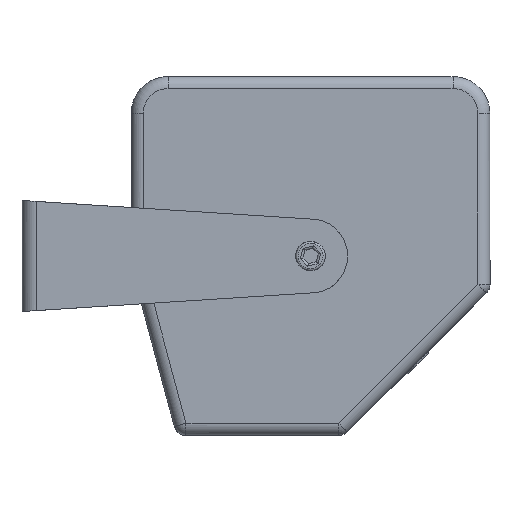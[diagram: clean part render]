
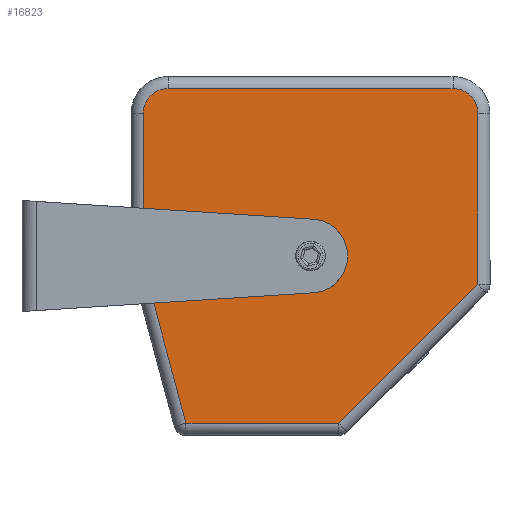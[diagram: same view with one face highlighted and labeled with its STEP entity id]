
A CAD part, left-side view. The second image highlights one B-rep face of the part: STEP entity #16823.
In plain terms, the highlighted planar face has unit normal (-1, 0, 0).
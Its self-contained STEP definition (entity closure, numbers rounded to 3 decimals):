
#3145 = CARTESIAN_POINT ( 'NONE',  ( -12., 6.5, -20. ) ) ;
#3146 = CARTESIAN_POINT ( 'NONE',  ( -12., 6.5, -12.092 ) ) ;
#3147 = CARTESIAN_POINT ( 'NONE',  ( -12., 12.092, -6.5 ) ) ;
#3148 = CARTESIAN_POINT ( 'NONE',  ( -12., 20., -6.5 ) ) ;
#3149 =( BOUNDED_CURVE ( )  B_SPLINE_CURVE ( 3, ( #3148, #3147, #3146, #3145 ),
 .UNSPECIFIED., .F., .T. ) 
 B_SPLINE_CURVE_WITH_KNOTS ( ( 4, 4 ),
 ( 0., 1. ),
 .UNSPECIFIED. ) 
 CURVE ( )  GEOMETRIC_REPRESENTATION_ITEM ( )  RATIONAL_B_SPLINE_CURVE ( ( 1., 0.805, 0.805, 1. ) ) 
 REPRESENTATION_ITEM ( '' )  );
#3156 = CARTESIAN_POINT ( 'NONE',  ( -12., 20., -187.5 ) ) ;
#3160 = CARTESIAN_POINT ( 'NONE',  ( -12., 20., -6.5 ) ) ;
#4397 = CARTESIAN_POINT ( 'NONE',  ( -12., 97., -107. ) ) ;
#4398 = CARTESIAN_POINT ( 'NONE',  ( -12., 98.309, -107. ) ) ;
#4399 = CARTESIAN_POINT ( 'NONE',  ( -12., 99.617, -106.74 ) ) ;
#4400 = CARTESIAN_POINT ( 'NONE',  ( -12., 102.036, -105.738 ) ) ;
#4401 = CARTESIAN_POINT ( 'NONE',  ( -12., 103.145, -104.997 ) ) ;
#4402 = CARTESIAN_POINT ( 'NONE',  ( -12., 104.997, -103.145 ) ) ;
#4403 = CARTESIAN_POINT ( 'NONE',  ( -12., 105.738, -102.036 ) ) ;
#4404 = CARTESIAN_POINT ( 'NONE',  ( -12., 106.74, -99.617 ) ) ;
#4405 = CARTESIAN_POINT ( 'NONE',  ( -12., 107., -98.309 ) ) ;
#4406 = CARTESIAN_POINT ( 'NONE',  ( -12., 107., -95.691 ) ) ;
#4407 = CARTESIAN_POINT ( 'NONE',  ( -12., 106.74, -94.383 ) ) ;
#4408 = CARTESIAN_POINT ( 'NONE',  ( -12., 105.738, -91.964 ) ) ;
#4409 = CARTESIAN_POINT ( 'NONE',  ( -12., 104.997, -90.855 ) ) ;
#4410 = CARTESIAN_POINT ( 'NONE',  ( -12., 103.145, -89.003 ) ) ;
#4411 = CARTESIAN_POINT ( 'NONE',  ( -12., 102.036, -88.262 ) ) ;
#4412 = CARTESIAN_POINT ( 'NONE',  ( -12., 99.617, -87.26 ) ) ;
#4413 = CARTESIAN_POINT ( 'NONE',  ( -12., 98.309, -87. ) ) ;
#4484 = CARTESIAN_POINT ( 'NONE',  ( -12., 97., -87. ) ) ;
#4485 = B_SPLINE_CURVE_WITH_KNOTS ( 'NONE', 3,
 ( #4484, #4413, #4412, #4411, #4410, #4409, #4408, #4407, #4406, #4405, #4404, #4403, #4402, #4401, #4400, #4399, #4398, #4397 ),
 .UNSPECIFIED., .F., .F.,
 ( 4, 2, 2, 2, 2, 2, 2, 2, 4 ),
 ( 0., 0.125, 0.25, 0.375, 0.5, 0.625, 0.75, 0.875, 1. ),
 .UNSPECIFIED. ) ;
#4534 = DIRECTION ( 'NONE',  ( 0., 0., -1. ) ) ;
#4535 = VECTOR ( 'NONE', #4534, 1000. ) ;
#4536 = CARTESIAN_POINT ( 'NONE',  ( -12., 6.5, -91.565 ) ) ;
#4537 = LINE ( 'NONE', #4536, #4535 ) ;
#4539 = CARTESIAN_POINT ( 'NONE',  ( -12., 97., -87. ) ) ;
#4549 = CARTESIAN_POINT ( 'NONE',  ( -12., 97., -87. ) ) ;
#4575 = DIRECTION ( 'NONE',  ( 0., 0.707, 0.707 ) ) ;
#4576 = VECTOR ( 'NONE', #4575, 1000. ) ;
#4577 = CARTESIAN_POINT ( 'NONE',  ( -12., 112.308, -187.5 ) ) ;
#4578 = LINE ( 'NONE', #4577, #4576 ) ;
#4583 = CARTESIAN_POINT ( 'NONE',  ( -12., 112.308, -187.5 ) ) ;
#4584 = DIRECTION ( 'NONE',  ( 0., -0.966, 0.259 ) ) ;
#4585 = VECTOR ( 'NONE', #4584, 1000. ) ;
#4586 = CARTESIAN_POINT ( 'NONE',  ( -12., 187.5, -29.639 ) ) ;
#4587 = LINE ( 'NONE', #4586, #4585 ) ;
#4588 = DIRECTION ( 'NONE',  ( 0., 0., 1. ) ) ;
#4589 = VECTOR ( 'NONE', #4588, 1000. ) ;
#4590 = CARTESIAN_POINT ( 'NONE',  ( -12., 187.5, -91.565 ) ) ;
#4591 = LINE ( 'NONE', #4590, #4589 ) ;
#4615 = CARTESIAN_POINT ( 'NONE',  ( -12., 94.383, -87.26 ) ) ;
#4651 = CARTESIAN_POINT ( 'NONE',  ( -12., 6.5, -20. ) ) ;
#4677 = CARTESIAN_POINT ( 'NONE',  ( -12., 95.691, -87. ) ) ;
#5163 = CARTESIAN_POINT ( 'NONE',  ( -12., 95.691, -107. ) ) ;
#5164 = CARTESIAN_POINT ( 'NONE',  ( -12., 97., -107. ) ) ;
#5187 = CARTESIAN_POINT ( 'NONE',  ( -12., 97., -107. ) ) ;
#5197 = CARTESIAN_POINT ( 'NONE',  ( -12., 91.964, -88.262 ) ) ;
#5198 = CARTESIAN_POINT ( 'NONE',  ( -12., 90.855, -89.003 ) ) ;
#5199 = CARTESIAN_POINT ( 'NONE',  ( -12., 89.003, -90.855 ) ) ;
#5200 = CARTESIAN_POINT ( 'NONE',  ( -12., 88.262, -91.964 ) ) ;
#5201 = CARTESIAN_POINT ( 'NONE',  ( -12., 87.26, -94.383 ) ) ;
#5202 = CARTESIAN_POINT ( 'NONE',  ( -12., 87., -95.691 ) ) ;
#5203 = CARTESIAN_POINT ( 'NONE',  ( -12., 87., -98.309 ) ) ;
#5204 = CARTESIAN_POINT ( 'NONE',  ( -12., 87.26, -99.617 ) ) ;
#5205 = CARTESIAN_POINT ( 'NONE',  ( -12., 88.262, -102.036 ) ) ;
#5208 = CARTESIAN_POINT ( 'NONE',  ( -12., 89.003, -103.145 ) ) ;
#5209 = CARTESIAN_POINT ( 'NONE',  ( -12., 90.855, -104.997 ) ) ;
#5210 = CARTESIAN_POINT ( 'NONE',  ( -12., 91.964, -105.738 ) ) ;
#5211 = CARTESIAN_POINT ( 'NONE',  ( -12., 94.383, -106.74 ) ) ;
#5212 = B_SPLINE_CURVE_WITH_KNOTS ( 'NONE', 3,
 ( #5164, #5163, #5211, #5210, #5209, #5208, #5205, #5204, #5203, #5202, #5201, #5200, #5199, #5198, #5197, #4615, #4677, #4549 ),
 .UNSPECIFIED., .F., .F.,
 ( 4, 2, 2, 2, 2, 2, 2, 2, 4 ),
 ( 0., 0.125, 0.25, 0.375, 0.5, 0.625, 0.75, 0.875, 1. ),
 .UNSPECIFIED. ) ;
#7396 = DIRECTION ( 'NONE',  ( 0., 1., 0. ) ) ;
#7398 = CARTESIAN_POINT ( 'NONE',  ( -12., 90.336, -187.5 ) ) ;
#7399 = LINE ( 'NONE', #7398, #7405 ) ;
#7405 = VECTOR ( 'NONE', #7396, 1000. ) ;
#8164 = DIRECTION ( 'NONE',  ( 0., -1., 0. ) ) ;
#8167 = VECTOR ( 'NONE', #8164, 1000. ) ;
#8168 = CARTESIAN_POINT ( 'NONE',  ( -12., 42.836, -6.5 ) ) ;
#8169 = LINE ( 'NONE', #8168, #8167 ) ;
#8905 = CARTESIAN_POINT ( 'NONE',  ( -12., 187.5, -29.639 ) ) ;
#9383 = DIRECTION ( 'NONE',  ( 0., 0., -1. ) ) ;
#9385 = DIRECTION ( 'NONE',  ( 1., 0., 0. ) ) ;
#9387 = CARTESIAN_POINT ( 'NONE',  ( -12., 65.672, -91.565 ) ) ;
#9388 = AXIS2_PLACEMENT_3D ( 'NONE', #9387, #9385, #9383 ) ;
#9456 = PLANE ( 'NONE',  #9388 ) ;
#9457 = FACE_OUTER_BOUND ( 'NONE', #16821, .T. ) ;
#9458 = FACE_BOUND ( 'NONE', #16824, .T. ) ;
#9469 =( BOUNDED_CURVE ( )  B_SPLINE_CURVE ( 3, ( #9475, #9474, #9473, #9472 ),
 .UNSPECIFIED., .F., .T. ) 
 B_SPLINE_CURVE_WITH_KNOTS ( ( 4, 4 ),
 ( 0., 1. ),
 .UNSPECIFIED. ) 
 CURVE ( )  GEOMETRIC_REPRESENTATION_ITEM ( )  RATIONAL_B_SPLINE_CURVE ( ( 1., 0.805, 0.805, 1. ) ) 
 REPRESENTATION_ITEM ( '' )  );
#9472 = CARTESIAN_POINT ( 'NONE',  ( -12., 20., -187.5 ) ) ;
#9473 = CARTESIAN_POINT ( 'NONE',  ( -12., 12.092, -187.5 ) ) ;
#9474 = CARTESIAN_POINT ( 'NONE',  ( -12., 6.5, -181.908 ) ) ;
#9475 = CARTESIAN_POINT ( 'NONE',  ( -12., 6.5, -174. ) ) ;
#9496 = CARTESIAN_POINT ( 'NONE',  ( -12., 187.5, -112.308 ) ) ;
#9563 = CARTESIAN_POINT ( 'NONE',  ( -12., 6.5, -174. ) ) ;
#14309 = CARTESIAN_POINT ( 'NONE',  ( -12., 101.144, -6.5 ) ) ;
#15126 = VERTEX_POINT ( 'NONE', #8905 ) ;
#15540 = VERTEX_POINT ( 'NONE', #9496 ) ;
#16448 = VERTEX_POINT ( 'NONE', #14309 ) ;
#16544 = EDGE_CURVE ( 'NONE', #18248, #18245, #4485, .T. ) ;
#16588 = EDGE_CURVE ( 'NONE', #15540, #15126, #4591, .T. ) ;
#16593 = EDGE_CURVE ( 'NONE', #15126, #16448, #4587, .T. ) ;
#16594 = VERTEX_POINT ( 'NONE', #4583 ) ;
#16600 = EDGE_CURVE ( 'NONE', #16594, #15540, #4578, .T. ) ;
#16630 = EDGE_CURVE ( 'NONE', #16656, #16800, #4537, .T. ) ;
#16656 = VERTEX_POINT ( 'NONE', #4651 ) ;
#16686 = ORIENTED_EDGE ( 'NONE', *, *, #16789, .F. ) ;
#16743 = VERTEX_POINT ( 'NONE', #3156 ) ;
#16744 = EDGE_CURVE ( 'NONE', #16746, #16656, #3149, .T. ) ;
#16746 = VERTEX_POINT ( 'NONE', #3160 ) ;
#16789 = EDGE_CURVE ( 'NONE', #16448, #16746, #8169, .T. ) ;
#16790 = ORIENTED_EDGE ( 'NONE', *, *, #16593, .F. ) ;
#16791 = ORIENTED_EDGE ( 'NONE', *, *, #16588, .F. ) ;
#16792 = ORIENTED_EDGE ( 'NONE', *, *, #16600, .F. ) ;
#16793 = ORIENTED_EDGE ( 'NONE', *, *, #16794, .F. ) ;
#16794 = EDGE_CURVE ( 'NONE', #16743, #16594, #7399, .T. ) ;
#16798 = ORIENTED_EDGE ( 'NONE', *, *, #16630, .F. ) ;
#16799 = ORIENTED_EDGE ( 'NONE', *, *, #16744, .F. ) ;
#16800 = VERTEX_POINT ( 'NONE', #9563 ) ;
#16818 = ORIENTED_EDGE ( 'NONE', *, *, #18247, .F. ) ;
#16819 = ORIENTED_EDGE ( 'NONE', *, *, #16544, .F. ) ;
#16821 = EDGE_LOOP ( 'NONE', ( #16822, #16798, #16799, #16686, #16790, #16791, #16792, #16793 ) ) ;
#16822 = ORIENTED_EDGE ( 'NONE', *, *, #16831, .F. ) ;
#16823 = ADVANCED_FACE ( 'NONE', ( #9458, #9457 ), #9456, .F. ) ;
#16824 = EDGE_LOOP ( 'NONE', ( #16818, #16819 ) ) ;
#16831 = EDGE_CURVE ( 'NONE', #16800, #16743, #9469, .T. ) ;
#18245 = VERTEX_POINT ( 'NONE', #5187 ) ;
#18247 = EDGE_CURVE ( 'NONE', #18245, #18248, #5212, .T. ) ;
#18248 = VERTEX_POINT ( 'NONE', #4539 ) ;
